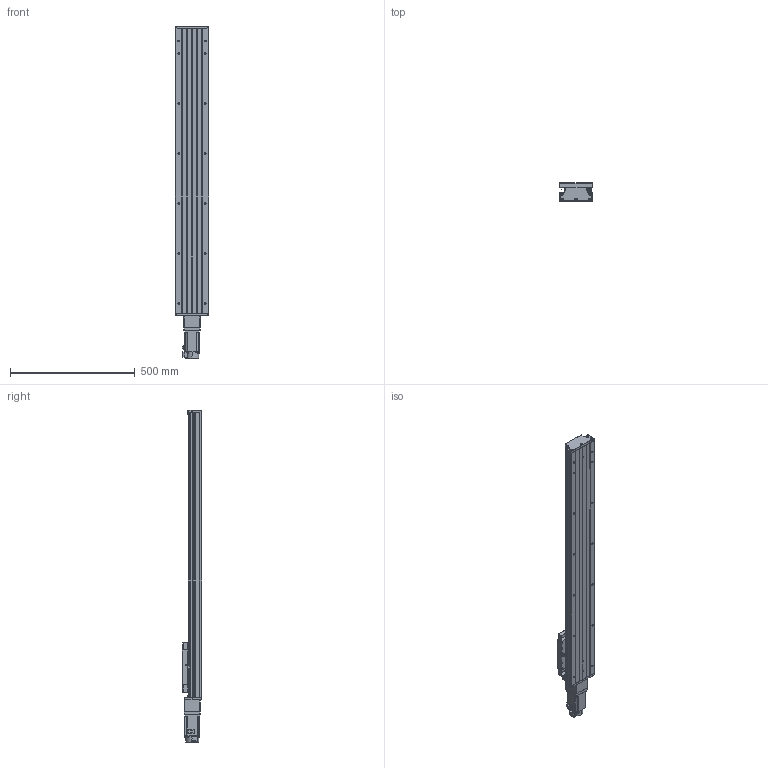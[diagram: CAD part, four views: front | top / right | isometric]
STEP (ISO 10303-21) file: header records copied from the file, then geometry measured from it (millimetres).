
FILE_DESCRIPTION (( 'STEP AP203' ), '1' );
FILE_NAME ('GTH14-900-BC-M40-C4.step', '2023-06-30T08:35:56', ( '微软用户' ), ( '微软中国' ), 'SwSTEP 2.0', 'SolidWorks 2020', '' );
FILE_SCHEMA (( 'CONFIG_CONTROL_DESIGN' ));
Length unit declared in the file: millimetre
Products named in the file (20): GTH14-001_900; す晦芛蹟隊 M3℅5; CTHA60-017; GTH14-002_GTH14-002; CTHA86-006-1_M40; EE_SX911P_R; GTH14-004; CTHA86-013; CTHA60-016; GTH14-005; CTHA86-027-1; GBT 70.1-M3℅5; GB1155-6X6; HG-KN43J-S100; GBT77-2000 M3×3; GBT 70.3-M3℅8; GBT70.1 M5℅16; GTH14-031; GTH14-900-BC-M40-C4; GBT 70.2-M3¡Á5_M3¡Á6
Assembly tree (57 placements, depth 2):
  GTH14-900-BC-M40-C4
    GTH14-001_900
    GTH14-002_GTH14-002
    GTH14-004
    GTH14-005
    GB1155-6X6  x2
    GBT70.1 M5℅16  x10
    GBT 70.2-M3¡Á5_M3¡Á6  x8
    CTHA60-017  x3
    EE_SX911P_R  x3
    CTHA60-016  x2
    GBT 70.1-M3℅5  x6
    GBT77-2000 M3×3  x6
    GTH14-031
    す晦芛蹟隊 M3℅5  x6
    CTHA86-006-1_M40
    CTHA86-013
    CTHA86-027-1
    HG-KN43J-S100
    GBT 70.3-M3℅8  x2
Bounding box: 135 x 78 x 1328.7 mm (x, y, z)
Volume: 6568211.6 mm3; surface area: 1019642.4 mm2
Topology: 60 solids, 60 shells, 2434 faces, 5805 edges, 3586 vertices
Faces by surface type: plane 1306, cylinder 664, cone 304, torus 120, sphere 20, bspline 20
Entity records: 45036 total; most frequent: CARTESIAN_POINT 9997, DIRECTION 6636, ORIENTED_EDGE 6494, EDGE_CURVE 3247, AXIS2_PLACEMENT_3D 2269, LINE 2098, VECTOR 2098, VERTEX_POINT 2054
